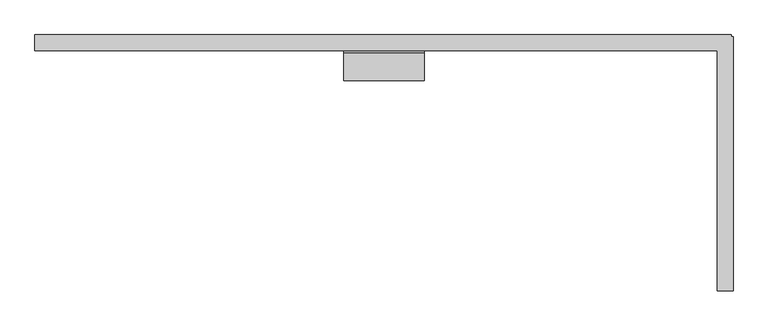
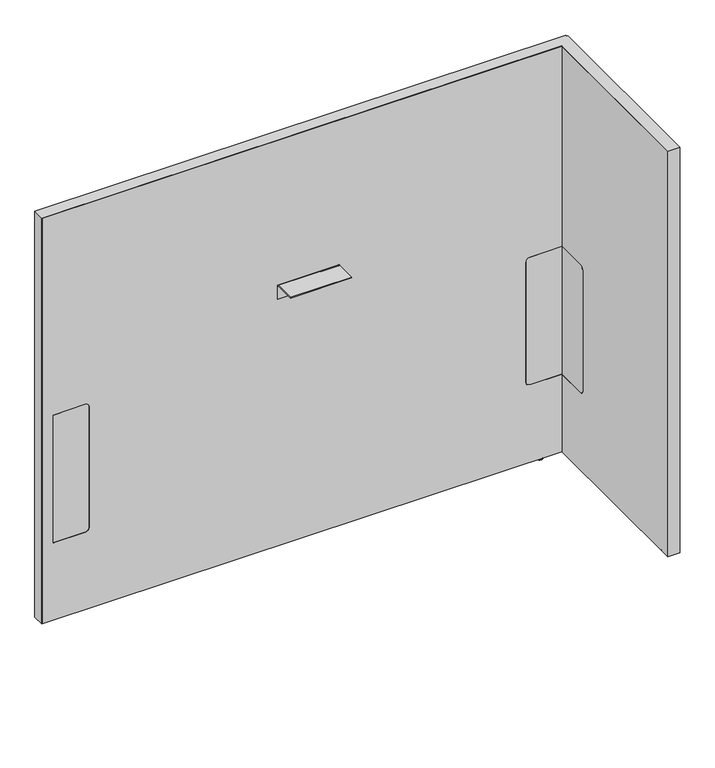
"""IFC4 building model written with IfcOpenShell, lengths in millimetres: furniture geometry, Steelcase - Answer Solution - Boundary Screen - L Return - Single Sided : 42H x 51W."""

from ifc_helpers import new_model, si_unit, point, frame, frame_2d, origin, place, context, project, spatial, polyline, circle_curve, ellipse_curve, trimmed, segment, composite_curve, outline, extrude, faceted_brep, source, transform, mapped, element, save
from ifc_brep_helpers import plane_surface, cylinder_surface, revolved_surface, advanced_brep


def furniture_9a904967(model_context):
    return source(origin(), model_context, "Body", "SolidModel", [
        extrude(outline(composite_curve([segment(polyline([(-109.3501471, 549.6162029), (-29.0550397, 549.6162029), (-29.0550397, 213.7762137), (-109.3501471, 213.7762137)]), True, "CONTINUOUS"), segment(trimmed(circle_curve(frame_2d((-109.3501471, 223.9362137)), 10.16), [point((-109.3501471, 213.7762137))], [point((-119.5101471, 223.9362137))], False, "CARTESIAN"), True, "CONTINUOUS"), segment(polyline([(-119.5101471, 223.9362137), (-119.5101471, 539.4562029)]), True, "CONTINUOUS"), segment(trimmed(circle_curve(frame_2d((-109.3501471, 539.4562029)), 10.16), [point((-119.5101471, 539.4562029))], [point((-109.3501471, 549.6162029))], False, "CARTESIAN"), True, "CONTINUOUS")], self_intersect=False)), frame((1525.2191891, 0.0, 0.0), z_axis=(1.0, 0.0, 0.0), x_axis=(0.0, 1.0, 0.0)), (0.0, 0.0, 1.0), 0.6401544),
        advanced_brep(
        [(1540.0672074, -448.0136072, 0.0), (1547.0216144, -448.0136072, 0.0), (1533.1128003, -448.0136072, 0.0), (1548.4762685, -448.0136072, 1.2700001), (1531.6581463, -448.0136072, 1.2700001), (1548.4762685, -448.0136072, 2.9673238), (1531.6581463, -448.0136072, 2.9673238), (1549.4427877, -448.0136072, 2.9673238), (1530.691627, -448.0136072, 2.9673238), (1549.4427877, -448.0136072, 9.9059849), (1530.691627, -448.0136072, 9.9059849), (1540.0672074, -448.0136072, 9.9059849)],
        [
            (0, 1),
            (1, 2, circle_curve(frame((1540.0672074, -448.0136072, 0.0), z_axis=(0.0, 0.0, -1.0), x_axis=(1.0, 0.0, 0.0)), 6.9544071)),
            (2, 0),
            (2, 1, circle_curve(frame((1540.0672074, -448.0136072, 0.0), z_axis=(0.0, 0.0, -1.0), x_axis=(1.0, 0.0, 0.0)), 6.9544071)),
            (1, 3, circle_curve(frame((1547.1945484, -448.0136072, 1.2700001), z_axis=(0.0, -1.0, 0.0), x_axis=(0.0, 0.0, 1.0)), 1.2817201)),
            (3, 4, circle_curve(frame((1540.0672074, -448.0136072, 1.2700001), z_axis=(0.0, 0.0, -1.0), x_axis=(1.0, 0.0, 0.0)), 8.4090611)),
            (4, 2, circle_curve(frame((1532.9398663, -448.0136072, 1.2700001), z_axis=(0.0, -1.0, 0.0), x_axis=(0.0, 0.0, 1.0)), 1.2817201)),
            (4, 3, circle_curve(frame((1540.0672074, -448.0136072, 1.2700001), z_axis=(0.0, 0.0, -1.0), x_axis=(1.0, 0.0, 0.0)), 8.4090611)),
            (3, 5),
            (5, 6, circle_curve(frame((1540.0672074, -448.0136072, 2.9673238), z_axis=(0.0, 0.0, -1.0), x_axis=(1.0, 0.0, 0.0)), 8.4090611)),
            (6, 4),
            (6, 5, circle_curve(frame((1540.0672074, -448.0136072, 2.9673238), z_axis=(0.0, 0.0, -1.0), x_axis=(1.0, 0.0, 0.0)), 8.4090611)),
            (5, 7),
            (7, 8, circle_curve(frame((1540.0672074, -448.0136072, 2.9673238), z_axis=(0.0, 0.0, -1.0), x_axis=(1.0, 0.0, 0.0)), 9.3755804)),
            (8, 6),
            (8, 7, circle_curve(frame((1540.0672074, -448.0136072, 2.9673238), z_axis=(0.0, 0.0, -1.0), x_axis=(1.0, 0.0, 0.0)), 9.3755804)),
            (7, 9),
            (9, 10, circle_curve(frame((1540.0672074, -448.0136072, 9.9059849), z_axis=(0.0, 0.0, -1.0), x_axis=(1.0, 0.0, 0.0)), 9.3755804)),
            (10, 8),
            (10, 9, circle_curve(frame((1540.0672074, -448.0136072, 9.9059849), z_axis=(0.0, 0.0, -1.0), x_axis=(1.0, 0.0, 0.0)), 9.3755804)),
            (9, 11),
            (11, 10),
        ],
        [
            plane_surface(frame((1540.0672074, -448.0136072, 0.0), z_axis=(0.0, 0.0, -1.0), x_axis=(1.0, 0.0, 0.0))),
            revolved_surface(trimmed(ellipse_curve(frame((1547.1945484, -448.0136072, 1.2700001), z_axis=(0.0, 1.0, 0.0), x_axis=(0.0, 0.0, 1.0)), 1.2817201, 1.2817201), [point((1548.4762685, -448.0136072, 1.2700001))], [point((1547.0216144, -448.0136072, 0.0))], True, "CARTESIAN"), (1540.0672074, -448.0136072, 9.9059849), (0.0, 0.0, -1.0)),
            cylinder_surface(frame((1540.0672074, -448.0136072, 9.9059849), z_axis=(0.0, 0.0, -1.0), x_axis=(1.0, 0.0, 0.0)), 8.4090611),
            plane_surface(frame((1540.0672074, -448.0136072, 2.9673238), z_axis=(0.0, 0.0, -1.0), x_axis=(1.0, 0.0, 0.0))),
            cylinder_surface(frame((1540.0672074, -448.0136072, 9.9059849), z_axis=(0.0, 0.0, -1.0), x_axis=(1.0, 0.0, 0.0)), 9.3755804),
            plane_surface(frame((1540.0672074, -448.0136072, 9.9059849), z_axis=(0.0, 0.0, 1.0), x_axis=(1.0, 0.0, 0.0))),
        ],
        [
            (0, [[1, 2, 3]]),
            (0, [[-3, 4, -1]]),
            (1, [[-2, 5, 6, 7]]),
            (1, [[-4, -7, 8, -5]]),
            (2, [[-6, 9, 10, 11]]),
            (2, [[-8, -11, 12, -9]]),
            (3, [[-10, 13, 14, 15]]),
            (3, [[-12, -15, 16, -13]]),
            (4, [[-14, 17, 18, 19]]),
            (4, [[-16, -19, 20, -17]]),
            (5, [[-18, 21, 22]]),
            (5, [[-20, -22, -21]]),
        ],
    ),
        faceted_brep([(1551.6531179, 0.0, 1077.722), (1551.6531179, 0.0, 9.9059849), (1550.6621491, 0.0, 9.9059849), (1550.6621491, 0.0, 1076.742118), (230.8097779, 0.0, 1076.742118), (230.8097779, 0.0, 9.9059849), (229.8191891, 0.0, 9.9059849), (229.8191891, 0.0, 1077.722), (229.8191891, -29.6898332, 1077.722), (229.8191891, -29.6898332, 9.9059849), (230.8097779, -29.6898332, 9.9059849), (230.8097779, -29.6898332, 1076.742118), (1525.2191891, -29.6898332, 1076.742118), (1525.2191891, -29.6898332, 1077.722), (1550.6621491, -29.6898332, 1076.742118), (1550.6621491, -29.6898332, 9.9059849), (1551.6531179, -29.6898332, 9.9059849), (1551.6531179, -29.6898332, 1076.742118), (1551.6531179, -3.2625916, 1077.722), (1551.6531179, -3.2625916, 9.9059849), (1551.6531179, -4.252647, 9.9059849), (1551.6531179, -4.252647, 1076.742118), (1554.9152256, -3.2625916, 9.9059849), (1554.9152256, -4.252647, 9.9059849), (1550.6621491, -4.252647, 9.9059849), (1525.2191891, -4.252647, 9.9059849), (1525.2191891, -3.2625916, 9.9059849), (1550.6621491, -3.2625916, 9.9059849), (1525.2191891, -486.8898332, 1077.722), (1554.9152256, -486.8898332, 1077.722), (1554.9152256, -3.2625916, 1077.722), (1550.6621491, -3.2625916, 1076.742118), (1550.6621491, -4.252647, 1076.742118), (1525.2191891, -3.2625916, 1076.742118), (1525.2191891, -4.252647, 1076.742118), (1554.9152256, -4.252647, 1076.742118), (1554.9152256, -485.899196, 1076.742118), (1525.2191891, -485.899196, 1076.742118), (1525.2191891, -485.899196, 9.9059849), (1525.2191891, -486.8898332, 9.9059849), (1554.9152256, -486.8898332, 9.9059849), (1554.9152256, -485.899196, 9.9059849)], [[[0, 1, 2, 3, 4, 5, 6, 7]], [[8, 9, 10, 11, 12, 13]], [[14, 15, 16, 17]], [[1, 0, 18, 19]], [[17, 16, 20, 21]], [[2, 1, 19, 22, 23, 20, 16, 15, 24, 25, 26, 27]], [[7, 6, 9, 8]], [[0, 7, 8, 13, 28, 29, 30, 18]], [[3, 2, 27, 31]], [[15, 14, 32, 24]], [[4, 3, 31, 33, 34, 32, 14, 17, 21, 35, 36, 37, 12, 11]], [[5, 4, 11, 10]], [[6, 5, 10, 9]], [[26, 25, 34, 33]], [[37, 38, 39, 28, 13, 12]], [[29, 40, 41, 36, 35, 23, 22, 30]], [[27, 26, 33, 31]], [[30, 22, 19, 18]], [[34, 25, 24, 32]], [[23, 35, 21, 20]], [[38, 37, 36, 41]], [[39, 38, 41, 40]], [[28, 39, 40, 29]]]),
        extrude(outline(composite_curve([segment(polyline([(-86.8398151, 696.4680019), (-86.8398151, 698.5), (-34.9450855, 698.5)]), True, "CONTINUOUS"), segment(trimmed(circle_curve(frame_2d((-34.9450855, 693.2447477)), 5.2552523), [point((-34.9450855, 698.5))], [point((-29.6898332, 693.2447477))], False, "CARTESIAN"), True, "CONTINUOUS"), segment(polyline([(-29.6898332, 693.2447477), (-29.6898332, 660.4), (-31.7218162, 660.4), (-31.7218162, 693.0058743)]), True, "CONTINUOUS"), segment(trimmed(circle_curve(frame_2d((-35.1839438, 693.0058743)), 3.4621276), [point((-31.7218162, 693.0058743))], [point((-35.1839438, 696.4680019))], True, "CARTESIAN"), True, "CONTINUOUS"), segment(polyline([(-35.1839438, 696.4680019), (-86.8398151, 696.4680019)]), True, "CONTINUOUS")], self_intersect=False)), frame((816.1685899, 0.0, 0.0), z_axis=(1.0, 0.0, 0.0), x_axis=(0.0, 1.0, 0.0)), (0.0, 0.0, 1.0), 152.4000969),
        advanced_brep(
        [(1477.7246853, -23.7588726, 9.9059849), (1477.7246853, -5.9309607, 9.9059849), (1477.7246853, -14.8449166, 9.9059849), (1477.7246853, -23.7588726, 2.9673238), (1477.7246853, -5.9309607, 2.9673238), (1477.7246853, -22.7915354, 2.9673238), (1477.7246853, -6.8982978, 2.9673238), (1477.7246853, -22.7915354, 1.6569081), (1477.7246853, -6.8982978, 1.6569081), (1477.7246853, -21.1346274, 0.0), (1477.7246853, -8.5552059, 0.0), (1477.7246853, -14.8449166, 0.0)],
        [
            (0, 1, circle_curve(frame((1477.7246853, -14.8449166, 9.9059849), z_axis=(0.0, 0.0, 1.0), x_axis=(0.0, 1.0, 0.0)), 8.913956)),
            (1, 2),
            (2, 0),
            (1, 0, circle_curve(frame((1477.7246853, -14.8449166, 9.9059849), z_axis=(0.0, 0.0, 1.0), x_axis=(0.0, 1.0, 0.0)), 8.913956)),
            (3, 4, circle_curve(frame((1477.7246853, -14.8449166, 2.9673238), z_axis=(0.0, 0.0, 1.0), x_axis=(0.0, 1.0, 0.0)), 8.913956)),
            (4, 1),
            (0, 3),
            (4, 3, circle_curve(frame((1477.7246853, -14.8449166, 2.9673238), z_axis=(0.0, 0.0, 1.0), x_axis=(0.0, 1.0, 0.0)), 8.913956)),
            (5, 6, circle_curve(frame((1477.7246853, -14.8449166, 2.9673238), z_axis=(0.0, 0.0, 1.0), x_axis=(0.0, 1.0, 0.0)), 7.9466188)),
            (6, 4),
            (3, 5),
            (6, 5, circle_curve(frame((1477.7246853, -14.8449166, 2.9673238), z_axis=(0.0, 0.0, 1.0), x_axis=(0.0, 1.0, 0.0)), 7.9466188)),
            (7, 8, circle_curve(frame((1477.7246853, -14.8449166, 1.6569081), z_axis=(0.0, 0.0, 1.0), x_axis=(0.0, 1.0, 0.0)), 7.9466188)),
            (8, 6),
            (5, 7),
            (8, 7, circle_curve(frame((1477.7246853, -14.8449166, 1.6569081), z_axis=(0.0, 0.0, 1.0), x_axis=(0.0, 1.0, 0.0)), 7.9466188)),
            (9, 10, circle_curve(frame((1477.7246853, -14.8449166, 0.0), z_axis=(0.0, 0.0, 1.0), x_axis=(0.0, 1.0, 0.0)), 6.2897107)),
            (10, 8, circle_curve(frame((1477.7246853, -8.5552059, 1.6569081), z_axis=(1.0, 0.0, 0.0), x_axis=(0.0, 1.0, 0.0)), 1.6569081)),
            (7, 9, circle_curve(frame((1477.7246853, -21.1346274, 1.6569081), z_axis=(1.0, 0.0, 0.0), x_axis=(0.0, -1.0, 0.0)), 1.6569081)),
            (10, 9, circle_curve(frame((1477.7246853, -14.8449166, 0.0), z_axis=(0.0, 0.0, 1.0), x_axis=(0.0, 1.0, 0.0)), 6.2897107)),
            (11, 10),
            (9, 11),
        ],
        [
            plane_surface(frame((1477.7246853, -14.8449166, 9.9059849), z_axis=(0.0, 0.0, 1.0), x_axis=(0.0, 1.0, 0.0))),
            cylinder_surface(frame((1477.7246853, -14.8449166, 9.9059849), z_axis=(0.0, 0.0, -1.0), x_axis=(0.0, 1.0, 0.0)), 8.913956),
            plane_surface(frame((1477.7246853, -14.8449166, 2.9673238), z_axis=(0.0, 0.0, -1.0), x_axis=(0.0, 1.0, 0.0))),
            cylinder_surface(frame((1477.7246853, -14.8449166, 9.9059849), z_axis=(0.0, 0.0, -1.0), x_axis=(0.0, 1.0, 0.0)), 7.9466188),
            revolved_surface(trimmed(ellipse_curve(frame((1477.7246853, -8.5552059, 1.6569081), z_axis=(-1.0, 0.0, 0.0), x_axis=(0.0, 1.0, 0.0)), 1.6569081, 1.6569081), [point((1477.7246853, -6.8982978, 1.6569081))], [point((1477.7246853, -8.5552059, 0.0))], True, "CARTESIAN"), (1477.7246853, -14.8449166, 9.9059849), (0.0, 0.0, -1.0)),
            plane_surface(frame((1477.7246853, -14.8449166, 0.0), z_axis=(0.0, 0.0, -1.0), x_axis=(0.0, 1.0, 0.0))),
        ],
        [
            (0, [[1, 2, 3]]),
            (0, [[4, -3, -2]]),
            (1, [[5, 6, -1, 7]]),
            (1, [[8, -7, -4, -6]]),
            (2, [[9, 10, -5, 11]]),
            (2, [[12, -11, -8, -10]]),
            (3, [[13, 14, -9, 15]]),
            (3, [[16, -15, -12, -14]]),
            (4, [[17, 18, -13, 19]]),
            (4, [[20, -19, -16, -18]]),
            (5, [[21, -17, 22]]),
            (5, [[-22, -20, -21]]),
        ],
    ),
        advanced_brep(
        [(230.8097779, 0.0, 1076.742118), (1550.6621491, 0.0, 1076.742118), (1550.6621491, 0.0, 9.9059849), (230.8097779, 0.0, 9.9059849), (347.9483813, -29.0550397, 539.4562029), (337.7883813, -29.0550397, 549.6162029), (258.1344836, -29.0550397, 549.6162029), (258.1344836, -29.0550397, 213.7762137), (337.7883813, -29.0550397, 213.7762137), (347.9483813, -29.0550397, 223.9362137), (1525.8593435, -29.0550397, 213.7762137), (1525.8593435, -29.0550397, 549.6162029), (1445.3109268, -29.0550397, 549.6162029), (1435.1509268, -29.0550397, 539.4562029), (1435.1509268, -29.0550397, 223.9362137), (1445.3109268, -29.0550397, 213.7762137), (230.8097779, -29.6898332, 1076.742118), (230.8097779, -29.6898332, 9.9059849), (1525.2191891, -29.6898332, 9.9059849), (1525.2191891, -29.6898332, 213.7762137), (1445.3109268, -29.6898332, 213.7762137), (1435.1509268, -29.6898332, 223.9362137), (1435.1509268, -29.6898332, 539.4562029), (1445.3109268, -29.6898332, 549.6162029), (1525.2191891, -29.6898332, 549.6162029), (1525.2191891, -29.6898332, 1076.742118), (337.7883813, -29.6898332, 549.6162029), (347.9483813, -29.6898332, 539.4562029), (347.9483813, -29.6898332, 223.9362137), (337.7883813, -29.6898332, 213.7762137), (258.1344836, -29.6898332, 213.7762137), (258.1344836, -29.6898332, 549.6162029), (1550.6621491, -4.252647, 9.9059849), (1554.9152256, -4.252647, 9.9059849), (1554.9152256, -485.899196, 9.9059849), (1525.2191891, -485.899196, 9.9059849), (1550.6621491, -4.252647, 1076.742118), (1525.2191891, -485.899196, 1076.742118), (1554.9152256, -485.899196, 1076.742118), (1554.9152256, -4.252647, 1076.742118), (1525.8593435, -109.3501471, 549.6162029), (1525.2191891, -109.3501471, 549.6162029), (1525.8593435, -109.3501471, 213.7762137), (1525.8593435, -119.5101471, 223.9362137), (1525.8593435, -119.5101471, 539.4562029), (1525.2191891, -109.3501471, 213.7762137), (1525.2191891, -119.5101471, 539.4562029), (1525.2191891, -119.5101471, 223.9362137)],
        [
            (0, 1),
            (1, 2),
            (2, 3),
            (3, 0),
            (4, 5, circle_curve(frame((337.7883813, -29.0550397, 539.4562029), z_axis=(0.0, -1.0, 0.0), x_axis=(0.0, 0.0, 1.0)), 10.16)),
            (5, 6),
            (6, 7),
            (7, 8),
            (8, 9, circle_curve(frame((337.7883813, -29.0550397, 223.9362137), z_axis=(0.0, -1.0, 0.0), x_axis=(0.0, 0.0, 1.0)), 10.16)),
            (9, 4),
            (10, 11),
            (11, 12),
            (12, 13, circle_curve(frame((1445.3109268, -29.0550397, 539.4562029), z_axis=(0.0, -1.0, 0.0), x_axis=(0.0, 0.0, 1.0)), 10.16)),
            (13, 14),
            (14, 15, circle_curve(frame((1445.3109268, -29.0550397, 223.9362137), z_axis=(0.0, -1.0, 0.0), x_axis=(0.0, 0.0, 1.0)), 10.16)),
            (15, 10),
            (16, 17),
            (17, 18),
            (18, 19),
            (19, 20),
            (20, 21, circle_curve(frame((1445.3109268, -29.6898332, 223.9362137), z_axis=(0.0, 1.0, 0.0), x_axis=(0.0, 0.0, 1.0)), 10.16)),
            (21, 22),
            (22, 23, circle_curve(frame((1445.3109268, -29.6898332, 539.4562029), z_axis=(0.0, 1.0, 0.0), x_axis=(0.0, 0.0, 1.0)), 10.16)),
            (23, 24),
            (24, 25),
            (25, 16),
            (26, 27, circle_curve(frame((337.7883813, -29.6898332, 539.4562029), z_axis=(0.0, 1.0, 0.0), x_axis=(0.0, 0.0, 1.0)), 10.16)),
            (27, 28),
            (28, 29, circle_curve(frame((337.7883813, -29.6898332, 223.9362137), z_axis=(0.0, 1.0, 0.0), x_axis=(0.0, 0.0, 1.0)), 10.16)),
            (29, 30),
            (30, 31),
            (31, 26),
            (16, 0),
            (3, 17),
            (2, 32),
            (32, 33),
            (33, 34),
            (34, 35),
            (35, 18),
            (1, 36),
            (36, 32),
            (25, 37),
            (37, 38),
            (38, 39),
            (39, 36),
            (26, 5),
            (4, 27),
            (9, 28),
            (8, 29),
            (7, 30),
            (6, 31),
            (11, 40),
            (40, 41),
            (41, 24),
            (23, 12),
            (42, 43, circle_curve(frame((1525.8593435, -109.3501471, 223.9362137), z_axis=(-1.0, 0.0, 0.0), x_axis=(0.0, 1.0, 0.0)), 10.16)),
            (43, 44),
            (44, 40, circle_curve(frame((1525.8593435, -109.3501471, 539.4562029), z_axis=(-1.0, 0.0, 0.0), x_axis=(0.0, 1.0, 0.0)), 10.16)),
            (10, 42),
            (15, 20),
            (19, 45),
            (45, 42),
            (14, 21),
            (13, 22),
            (35, 37),
            (41, 46, circle_curve(frame((1525.2191891, -109.3501471, 539.4562029), z_axis=(1.0, 0.0, 0.0), x_axis=(0.0, 1.0, 0.0)), 10.16)),
            (46, 47),
            (47, 45, circle_curve(frame((1525.2191891, -109.3501471, 223.9362137), z_axis=(1.0, 0.0, 0.0), x_axis=(0.0, 1.0, 0.0)), 10.16)),
            (38, 34),
            (33, 39),
            (44, 46),
            (43, 47),
        ],
        [
            plane_surface(frame((347.9483813, 0.0, 549.6162029), z_axis=(0.0, 1.0, 0.0), x_axis=(0.0, 0.0, -1.0))),
            plane_surface(frame((347.9483813, -29.0550397, 549.6162029), z_axis=(0.0, -1.0, 0.0), x_axis=(0.0, 0.0, 1.0))),
            plane_surface(frame((1550.6621491, -29.6898332, 1076.742118), z_axis=(0.0, -1.0, 0.0), x_axis=(-1.0, 0.0, 0.0))),
            plane_surface(frame((230.8097779, 0.0, 9.9059849), z_axis=(-1.0, 0.0, 0.0), x_axis=(0.0, -1.0, 0.0))),
            plane_surface(frame((1550.6621491, 0.0, 9.9059849), z_axis=(0.0, 0.0, -1.0), x_axis=(0.0, -1.0, 0.0))),
            plane_surface(frame((1550.6621491, 0.0, 1076.742118), z_axis=(1.0, 0.0, 0.0), x_axis=(0.0, -1.0, 0.0))),
            plane_surface(frame((230.8097779, 0.0, 1076.742118), z_axis=(0.0, 0.0, 1.0), x_axis=(0.0, -1.0, 0.0))),
            revolved_surface(polyline([(337.7883813, -29.6898332, 549.6162029), (337.7883813, -29.0550397, 549.6162029)]), (337.7883813, -29.6898332, 539.4562029), (0.0, -1.0, 0.0)),
            plane_surface(frame((347.9483813, 0.0, 223.9362137), z_axis=(-1.0, 0.0, 0.0), x_axis=(0.0, -1.0, 0.0))),
            revolved_surface(polyline([(337.7883813, -29.6898332, 234.0962137), (337.7883813, -29.0550397, 234.0962137)]), (337.7883813, -29.6898332, 223.9362137), (0.0, -1.0, 0.0)),
            plane_surface(frame((258.1344836, 0.0, 213.7762137), z_axis=(0.0, 0.0, 1.0), x_axis=(0.0, -1.0, 0.0))),
            plane_surface(frame((258.1344836, 0.0, 549.6162029), z_axis=(1.0, 0.0, 0.0), x_axis=(0.0, -1.0, 0.0))),
            plane_surface(frame((337.7883813, 0.0, 549.6162029), z_axis=(0.0, 0.0, -1.0), x_axis=(0.0, -1.0, 0.0))),
            plane_surface(frame((1525.8593435, 0.0, 549.6162029), z_axis=(0.0, 0.0, -1.0), x_axis=(0.0, -1.0, 0.0))),
            plane_surface(frame((1525.8593435, 0.0, 213.7762137), z_axis=(-1.0, 0.0, 0.0), x_axis=(0.0, -1.0, 0.0))),
            plane_surface(frame((1445.3109268, 0.0, 213.7762137), z_axis=(0.0, 0.0, 1.0), x_axis=(0.0, -1.0, 0.0))),
            revolved_surface(polyline([(1445.3109268, -29.6898332, 234.0962137), (1445.3109268, -29.0550397, 234.0962137)]), (1445.3109268, -29.6898332, 223.9362137), (0.0, -1.0, 0.0)),
            plane_surface(frame((1435.1509268, 0.0, 539.4562029), z_axis=(1.0, 0.0, 0.0), x_axis=(0.0, -1.0, 0.0))),
            revolved_surface(polyline([(1445.3109268, -29.6898332, 549.6162029), (1445.3109268, -29.0550397, 549.6162029)]), (1445.3109268, -29.6898332, 539.4562029), (0.0, -1.0, 0.0)),
            plane_surface(frame((1525.2191891, -485.899196, 1076.742118), z_axis=(-1.0, 0.0, 0.0), x_axis=(0.0, 0.0, 1.0))),
            plane_surface(frame((1554.9152256, -485.899196, 1076.742118), z_axis=(1.0, 0.0, 0.0), x_axis=(0.0, 0.0, -1.0))),
            plane_surface(frame((1554.9152256, -4.252647, 9.9059849), z_axis=(0.0, 1.0, 0.0), x_axis=(-1.0, 0.0, 0.0))),
            plane_surface(frame((1554.9152256, -485.899196, 1076.742118), z_axis=(0.0, -1.0, 0.0), x_axis=(-1.0, 0.0, 0.0))),
            revolved_surface(polyline([(1525.2191891, -99.1901471, 539.4562029), (1525.8593435, -99.1901471, 539.4562029)]), (-340.6902705, -109.3501471, 539.4562029), (-1.0, 0.0, 0.0)),
            plane_surface(frame((1554.9152256, -119.5101471, 223.9362137), z_axis=(0.0, 1.0, 0.0), x_axis=(-1.0, 0.0, 0.0))),
            revolved_surface(polyline([(1525.2191891, -99.1901471, 223.9362137), (1525.8593435, -99.1901471, 223.9362137)]), (-340.6902705, -109.3501471, 223.9362137), (-1.0, 0.0, 0.0)),
        ],
        [
            (0, [[1, 2, 3, 4]]),
            (1, [[5, 6, 7, 8, 9, 10]]),
            (1, [[11, 12, 13, 14, 15, 16]]),
            (2, [[17, 18, 19, 20, 21, 22, 23, 24, 25, 26], [27, 28, 29, 30, 31, 32]]),
            (3, [[-17, 33, -4, 34]]),
            (4, [[-3, 35, 36, 37, 38, 39, -18, -34]]),
            (5, [[-2, 40, 41, -35]]),
            (6, [[-1, -33, -26, 42, 43, 44, 45, -40]]),
            (7, [[-27, 46, -5, 47]]),
            (8, [[-28, -47, -10, 48]]),
            (9, [[-29, -48, -9, 49]]),
            (10, [[-30, -49, -8, 50]]),
            (11, [[-31, -50, -7, 51]]),
            (12, [[-32, -51, -6, -46]]),
            (13, [[52, 53, 54, -24, 55, -12]]),
            (14, [[56, 57, 58, -52, -11, 59]]),
            (15, [[-59, -16, 60, -20, 61, 62]]),
            (16, [[-21, -60, -15, 63]]),
            (17, [[-22, -63, -14, 64]]),
            (18, [[-23, -64, -13, -55]]),
            (19, [[65, -42, -25, -54, 66, 67, 68, -61, -19, -39]]),
            (20, [[69, -37, 70, -44]]),
            (21, [[-70, -36, -41, -45]]),
            (22, [[-65, -38, -69, -43]]),
            (23, [[-66, -53, -58, 71]]),
            (24, [[-67, -71, -57, 72]]),
            (25, [[-68, -72, -56, -62]]),
        ],
    ),
        extrude(outline(composite_curve([segment(polyline([(549.6162029, 337.7883813), (549.6162029, 258.1344836), (213.7762137, 258.1344836), (213.7762137, 337.7883813)]), True, "CONTINUOUS"), segment(trimmed(circle_curve(frame_2d((223.9362137, 337.7883813)), 10.16), [point((213.7762137, 337.7883813))], [point((223.9362137, 347.9483813))], False, "CARTESIAN"), True, "CONTINUOUS"), segment(polyline([(223.9362137, 347.9483813), (539.4562029, 347.9483813)]), True, "CONTINUOUS"), segment(trimmed(circle_curve(frame_2d((539.4562029, 337.7883813)), 10.16), [point((539.4562029, 347.9483813))], [point((549.6162029, 337.7883813))], False, "CARTESIAN"), True, "CONTINUOUS")], self_intersect=False)), frame((0.0, -29.6898332, 0.0), z_axis=(0.0, 1.0, 0.0), x_axis=(0.0, 0.0, 1.0)), (0.0, 0.0, 1.0), 0.6347935),
        extrude(outline(composite_curve([segment(trimmed(circle_curve(frame_2d((539.4562029, 1445.3109268)), 10.16), [point((549.6162029, 1445.3109268))], [point((539.4562029, 1435.1509268))], False, "CARTESIAN"), True, "CONTINUOUS"), segment(polyline([(539.4562029, 1435.1509268), (223.9362137, 1435.1509268)]), True, "CONTINUOUS"), segment(trimmed(circle_curve(frame_2d((223.9362137, 1445.3109268)), 10.16), [point((223.9362137, 1435.1509268))], [point((213.7762137, 1445.3109268))], False, "CARTESIAN"), True, "CONTINUOUS"), segment(polyline([(213.7762137, 1445.3109268), (213.7762137, 1525.2191891), (549.6162029, 1525.2191891), (549.6162029, 1445.3109268)]), True, "CONTINUOUS")], self_intersect=False)), frame((0.0, -29.6898332, 0.0), z_axis=(0.0, 1.0, 0.0), x_axis=(0.0, 0.0, 1.0)), (0.0, 0.0, 1.0), 0.6347935),
    ])


if __name__ == "__main__":
    model = new_model("IFC4")
    model_context = context("Model", 3, world=origin())
    ifc_project = project(units=[si_unit("LENGTHUNIT", "METRE", prefix="MILLI")], contexts=[model_context])
    site = spatial("IfcSite", under=ifc_project)
    building = spatial("IfcBuilding", under=site)
    placement = place(None, origin())
    furniture_shape = furniture_9a904967(model_context)
    element("IfcFurniture", 1, ObjectType="Steelcase - Answer Solution - Boundary Screen - L Return - Single Sided : 42H x 51W", at=placement, inside=building, context=model_context, shape_type="MappedRepresentation", body=[
        mapped(furniture_shape, transform((0.0, 0.0, 0.0), x_axis=(1.0, 0.0, 0.0), y_axis=(0.0, 1.0, 0.0), z_axis=(0.0, 0.0, 1.0))),
    ])
    save(model, "model.ifc")
